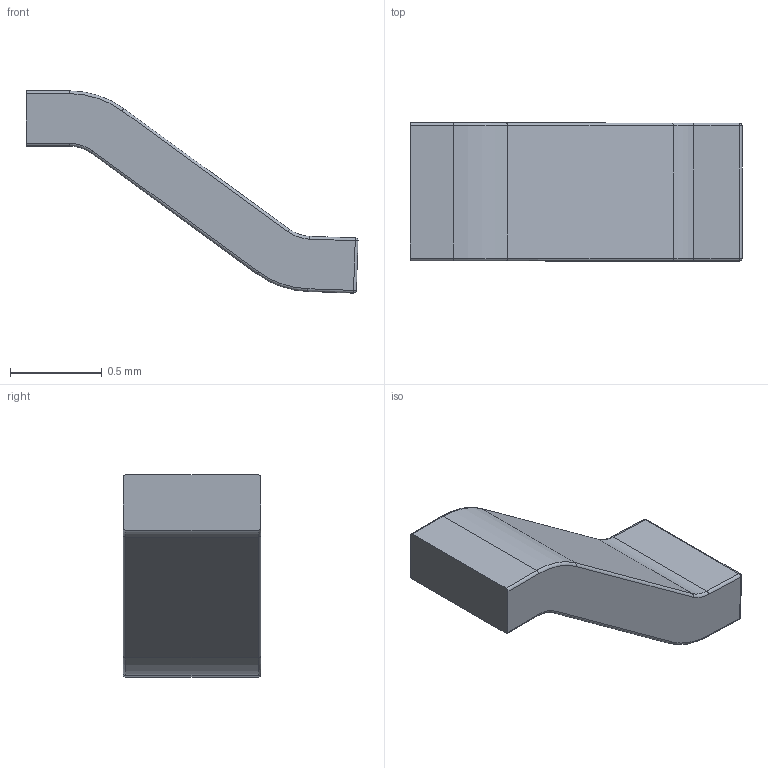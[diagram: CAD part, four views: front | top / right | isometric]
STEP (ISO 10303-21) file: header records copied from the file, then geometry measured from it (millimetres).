
FILE_DESCRIPTION(/* description */ ('STEP AP242 Edition 2','CAx-IF Rec.Pracs.---Representation and Presentation of Product Manufacturing Information (PMI)---4.0---2014-10-13','CAx-IF Rec.Pracs.---3D Tessellated Geometry---0.4---2014-09-14','2;1','CAx-IF Rec.Pracs.---User Defined Attributes---1.5---2016-08-15'),/* implementation_level */ '2;1');
FILE_NAME(/* name */ 'Assembly 1 - SOT-223_L6.5-W3.5-P2.30-LS7.0-BR~SOT-223-4P_L6.5-W3.5-H1.6-LS7.0-P2.30~nxQB (11)',/* time_stamp */ '2026-04-02T09:55:22Z',/* author */ (''),/* organization */ (''),/* preprocessor_version */ 'ST-DEVELOPER v20',/* originating_system */ 'ONSHAPE BY PTC INC, 1.212',/* authorisation */ ' ');
FILE_SCHEMA (('AP242_MANAGED_MODEL_BASED_3D_ENGINEERING_MIM_LF { 1 0 10303 442 3 1 4 }'));
Length unit declared in the file: metre
Products named in the file (1): SOT-223_L6.5-W3.5-P2.30-LS7.0-BR~SOT-223-4P_L6.5-W3.5-H1.6-LS7.0-P2.3
0~nxQB
Bounding box: 1.8 x 0.75 x 1.1 mm (x, y, z)
Volume: 0.5 mm3; surface area: 4.7 mm2
Topology: 1 solids, 1 shells, 42 faces, 96 edges, 54 vertices
Faces by surface type: cylinder 20, plane 10, torus 8, sphere 4
Entity records: 1457 total; most frequent: DIRECTION 226, CARTESIAN_POINT 187, ORIENTED_EDGE 184, EDGE_CURVE 92, AXIS2_PLACEMENT_3D 91, VERTEX_POINT 52, CIRCLE 48, LINE 44
